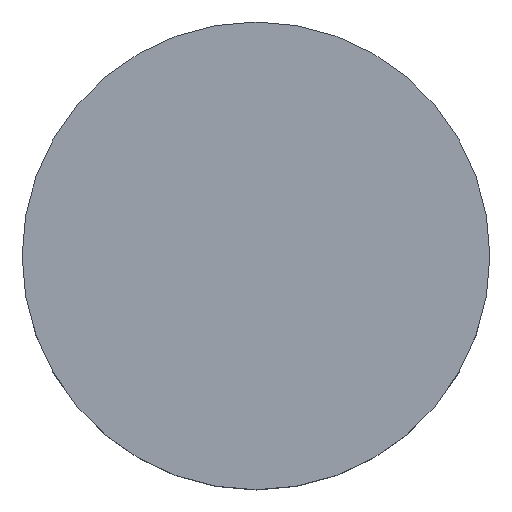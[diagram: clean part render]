
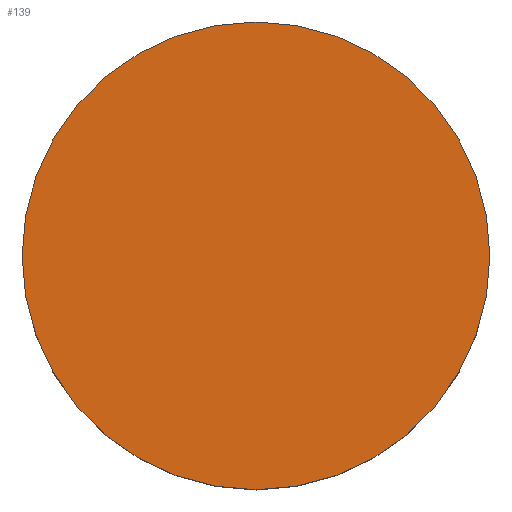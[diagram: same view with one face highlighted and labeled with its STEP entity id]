
A CAD part, top view. The second image highlights one B-rep face of the part: STEP entity #139.
In plain terms, the highlighted planar face has unit normal (0, 0, 1).
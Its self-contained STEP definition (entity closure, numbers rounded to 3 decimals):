
#31 = CYLINDRICAL_SURFACE('',#32,2.85);
#32 = AXIS2_PLACEMENT_3D('',#33,#34,#35);
#33 = CARTESIAN_POINT('',(-14.,4.,150.65));
#34 = DIRECTION('',(0.,0.,-1.));
#35 = DIRECTION('',(-1.,0.,0.));
#56 = VERTEX_POINT('',#57);
#57 = CARTESIAN_POINT('',(-16.85,4.,150.65));
#77 = EDGE_CURVE('',#56,#56,#78,.T.);
#78 = SURFACE_CURVE('',#79,(#84,#91),.PCURVE_S1.);
#79 = CIRCLE('',#80,2.85);
#80 = AXIS2_PLACEMENT_3D('',#81,#82,#83);
#81 = CARTESIAN_POINT('',(-14.,4.,150.65));
#82 = DIRECTION('',(0.,0.,-1.));
#83 = DIRECTION('',(-1.,0.,0.));
#84 = PCURVE('',#31,#85);
#85 = DEFINITIONAL_REPRESENTATION('',(#86),#90);
#86 = LINE('',#87,#88);
#87 = CARTESIAN_POINT('',(0.,0.));
#88 = VECTOR('',#89,1.);
#89 = DIRECTION('',(1.,0.));
#90 = ( GEOMETRIC_REPRESENTATION_CONTEXT(2) 
PARAMETRIC_REPRESENTATION_CONTEXT() REPRESENTATION_CONTEXT('2D SPACE',''
  ) );
#91 = PCURVE('',#92,#97);
#92 = PLANE('',#93);
#93 = AXIS2_PLACEMENT_3D('',#94,#95,#96);
#94 = CARTESIAN_POINT('',(-14.,4.,150.65));
#95 = DIRECTION('',(0.,0.,-1.));
#96 = DIRECTION('',(-1.,0.,0.));
#97 = DEFINITIONAL_REPRESENTATION('',(#98),#102);
#98 = CIRCLE('',#99,2.85);
#99 = AXIS2_PLACEMENT_2D('',#100,#101);
#100 = CARTESIAN_POINT('',(0.,0.));
#101 = DIRECTION('',(1.,0.));
#102 = ( GEOMETRIC_REPRESENTATION_CONTEXT(2) 
PARAMETRIC_REPRESENTATION_CONTEXT() REPRESENTATION_CONTEXT('2D SPACE',''
  ) );
#139 = ADVANCED_FACE('',(#140),#92,.F.);
#140 = FACE_BOUND('',#141,.T.);
#141 = EDGE_LOOP('',(#142));
#142 = ORIENTED_EDGE('',*,*,#77,.F.);
